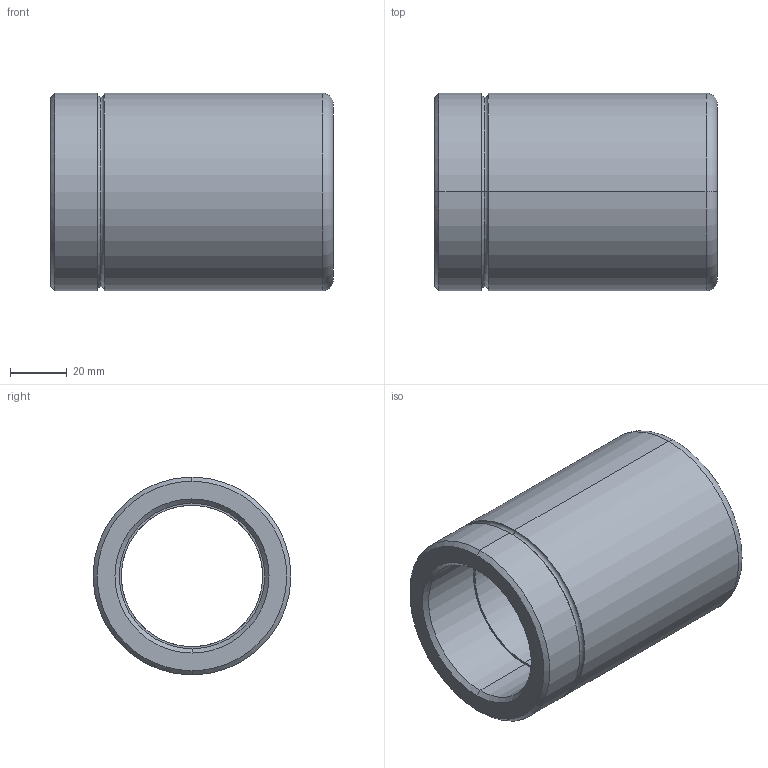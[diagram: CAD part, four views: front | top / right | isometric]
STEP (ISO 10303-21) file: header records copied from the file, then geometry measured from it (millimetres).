
FILE_DESCRIPTION(('CATIA V5 STEP Exchange'),'2;1');
FILE_NAME('C:\Users\Utente\Desktop\IO LAVORO\3D X SITO CF\X SITO\3D files 348\348-50 x 100.stp','2020-12-30T19:52:37+00:00',('none'),('none'),'CATIA Version 5 Release 20 GA (IN-10)','CATIA V5 STEP AP203','none');
FILE_SCHEMA(('CONFIG_CONTROL_DESIGN'));
Length unit declared in the file: millimetre
Products named in the file (1): 348-50 x 100
Bounding box: 100 x 70 x 70 mm (x, y, z)
Volume: 183193.4 mm3; surface area: 41501.8 mm2
Topology: 1 solids, 1 shells, 29 faces, 86 edges, 60 vertices
Faces by surface type: torus 12, cylinder 10, cone 4, plane 3
Entity records: 1154 total; most frequent: CARTESIAN_POINT 344, ORIENTED_EDGE 172, DIRECTION 132, AXIS2_PLACEMENT_3D 90, EDGE_CURVE 86, CIRCLE 60, VERTEX_POINT 60, EDGE_LOOP 32
